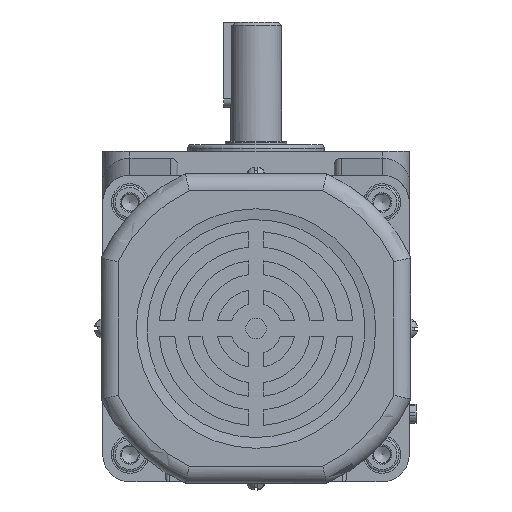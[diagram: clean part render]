
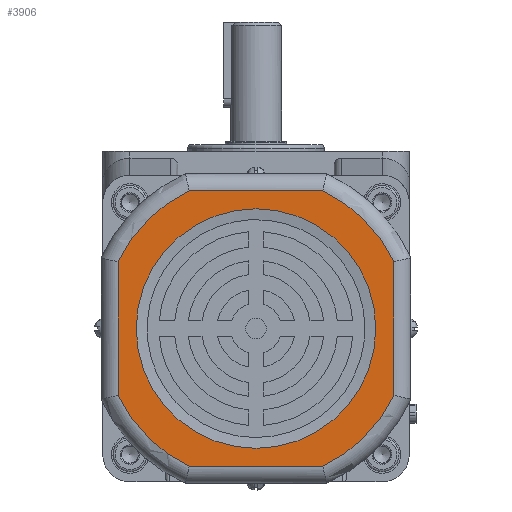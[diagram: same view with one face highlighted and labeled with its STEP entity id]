
A CAD part, front view. The second image highlights one B-rep face of the part: STEP entity #3906.
In plain terms, the highlighted planar face has unit normal (0, -1, 0).
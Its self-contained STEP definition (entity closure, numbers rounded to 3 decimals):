
#728=LINE('',#17264,#1517);
#731=LINE('',#17268,#1520);
#733=LINE('',#17271,#1522);
#735=LINE('',#17274,#1524);
#1517=VECTOR('',#13847,1.);
#1520=VECTOR('',#13852,1.);
#1522=VECTOR('',#13856,1.);
#1524=VECTOR('',#13860,1.);
#3906=ADVANCED_FACE('',(#4959,#4960),#4593,.F.);
#4593=PLANE('',#12508);
#4959=FACE_BOUND('',#5310,.T.);
#4960=FACE_BOUND('',#5311,.T.);
#5310=EDGE_LOOP('',(#6333,#6334,#6335,#6336,#6337,#6338,#6339,#6340));
#5311=EDGE_LOOP('',(#6341));
#6333=ORIENTED_EDGE('',*,*,#10213,.T.);
#6334=ORIENTED_EDGE('',*,*,#10205,.T.);
#6335=ORIENTED_EDGE('',*,*,#10206,.T.);
#6336=ORIENTED_EDGE('',*,*,#10193,.T.);
#6337=ORIENTED_EDGE('',*,*,#10209,.T.);
#6338=ORIENTED_EDGE('',*,*,#10197,.T.);
#6339=ORIENTED_EDGE('',*,*,#10211,.T.);
#6340=ORIENTED_EDGE('',*,*,#10201,.T.);
#6341=ORIENTED_EDGE('',*,*,#10252,.F.);
#9187=VERTEX_POINT('',#17153);
#9189=VERTEX_POINT('',#17168);
#9191=VERTEX_POINT('',#17184);
#9193=VERTEX_POINT('',#17199);
#9195=VERTEX_POINT('',#17215);
#9197=VERTEX_POINT('',#17230);
#9199=VERTEX_POINT('',#17246);
#9201=VERTEX_POINT('',#17261);
#9228=VERTEX_POINT('',#17356);
#10193=EDGE_CURVE('',#9187,#9189,#11702,.T.);
#10197=EDGE_CURVE('',#9191,#9193,#11704,.T.);
#10201=EDGE_CURVE('',#9195,#9197,#11706,.T.);
#10205=EDGE_CURVE('',#9199,#9201,#11708,.T.);
#10206=EDGE_CURVE('',#9201,#9187,#728,.T.);
#10209=EDGE_CURVE('',#9189,#9191,#731,.T.);
#10211=EDGE_CURVE('',#9193,#9195,#733,.T.);
#10213=EDGE_CURVE('',#9197,#9199,#735,.T.);
#10252=EDGE_CURVE('',#9228,#9228,#11711,.T.);
#11702=CIRCLE('',#12475,45.);
#11704=CIRCLE('',#12478,45.);
#11706=CIRCLE('',#12481,45.);
#11708=CIRCLE('',#12484,45.);
#11711=CIRCLE('',#12507,35.157);
#12475=AXIS2_PLACEMENT_3D('',#17169,#13825,#13826);
#12478=AXIS2_PLACEMENT_3D('',#17200,#13831,#13832);
#12481=AXIS2_PLACEMENT_3D('',#17231,#13837,#13838);
#12484=AXIS2_PLACEMENT_3D('',#17262,#13843,#13844);
#12507=AXIS2_PLACEMENT_3D('',#17355,#13933,#13934);
#12508=AXIS2_PLACEMENT_3D('',#17357,#13935,#13936);
#13825=DIRECTION('',(0.,-1.,0.));
#13826=DIRECTION('',(-1.,0.,0.));
#13831=DIRECTION('',(0.,-1.,0.));
#13832=DIRECTION('',(-1.,0.,0.));
#13837=DIRECTION('',(0.,-1.,0.));
#13838=DIRECTION('',(-1.,0.,0.));
#13843=DIRECTION('',(0.,-1.,0.));
#13844=DIRECTION('',(-1.,0.,0.));
#13847=DIRECTION('',(-1.,0.,0.));
#13852=DIRECTION('',(0.,0.,-1.));
#13856=DIRECTION('',(1.,0.,0.));
#13860=DIRECTION('',(0.,0.,1.));
#13933=DIRECTION('',(0.,-1.,0.));
#13934=DIRECTION('',(1.,0.,0.));
#13935=DIRECTION('',(0.,1.,0.));
#13936=DIRECTION('',(-1.,0.,0.));
#17153=CARTESIAN_POINT('',(-19.615,-245.,-11.5));
#17168=CARTESIAN_POINT('',(-40.5,-245.,-32.385));
#17169=CARTESIAN_POINT('',(0.,-245.,-52.));
#17184=CARTESIAN_POINT('',(-40.5,-245.,-71.615));
#17199=CARTESIAN_POINT('',(-19.615,-245.,-92.5));
#17200=CARTESIAN_POINT('',(0.,-245.,-52.));
#17215=CARTESIAN_POINT('',(19.615,-245.,-92.5));
#17230=CARTESIAN_POINT('',(40.5,-245.,-71.615));
#17231=CARTESIAN_POINT('',(0.,-245.,-52.));
#17246=CARTESIAN_POINT('',(40.5,-245.,-32.385));
#17261=CARTESIAN_POINT('',(19.615,-245.,-11.5));
#17262=CARTESIAN_POINT('',(0.,-245.,-52.));
#17264=CARTESIAN_POINT('',(-20.73,-245.,-11.5));
#17268=CARTESIAN_POINT('',(-40.5,-245.,-72.73));
#17271=CARTESIAN_POINT('',(20.73,-245.,-92.5));
#17274=CARTESIAN_POINT('',(40.5,-245.,-31.27));
#17355=CARTESIAN_POINT('',(0.,-245.,-52.));
#17356=CARTESIAN_POINT('',(35.157,-245.,-52.));
#17357=CARTESIAN_POINT('',(0.,-245.,-6.543));
